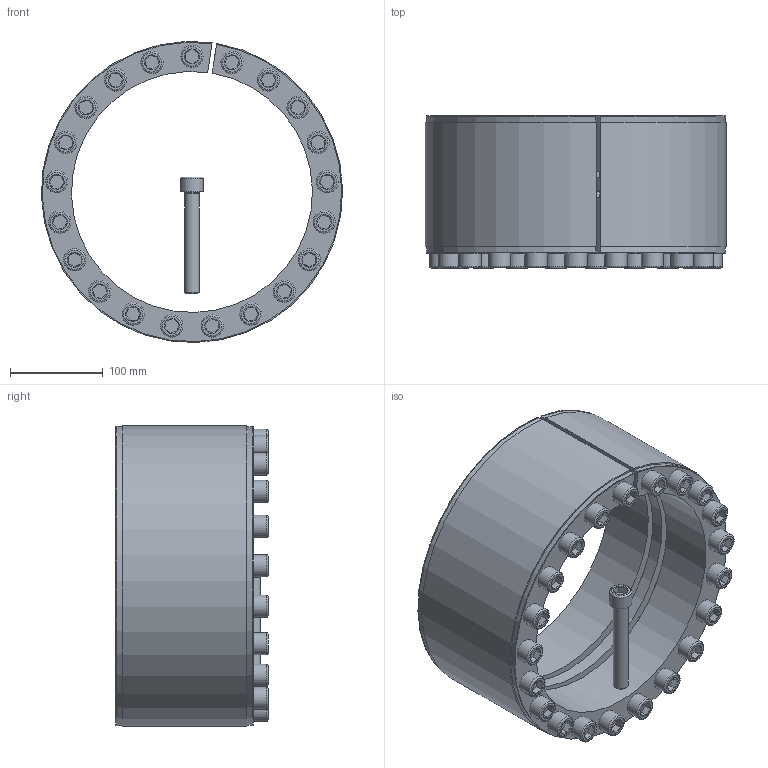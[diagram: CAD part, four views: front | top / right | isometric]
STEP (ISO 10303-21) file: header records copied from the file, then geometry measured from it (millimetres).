
FILE_DESCRIPTION( ( 'Unknown' ), '1' );
FILE_NAME( 'C:/Dokumente und Einstellungen/Sven/Desktop/homepage/cad - homepage/KBS11/KBS 11 - 260 x 325.stp', 'Unknown', ( 'Unknown' ), ( 'Unknown' ), 'XStep 1.0', 'Unknown', ' ' );
FILE_SCHEMA( ( 'automotive_design' ) );
Length unit declared in the file: millimetre
Products named in the file (3): Assem1; KBS 11 - 260 x 325; ISO EN DIN 4762 M16x110
Bounding box: 324.9 x 164 x 324.83 mm (x, y, z)
Volume: 7599688 mm3; surface area: 1276221 mm2
Topology: 24 solids, 24 shells, 716 faces, 1516 edges, 936 vertices
Faces by surface type: plane 284, cylinder 226, cone 162, torus 44
Full cylindrical faces by diameter (mm): 13 x22, 16 x170, 24 x22
Entity records: 4210 total; most frequent: DIRECTION 624, CARTESIAN_POINT 621, ORIENTED_EDGE 430, EDGE_LOOP 308, AXIS2_PLACEMENT_3D 292, EDGE_CURVE 215, VERTEX_POINT 185, FACE_OUTER_BOUND 177
